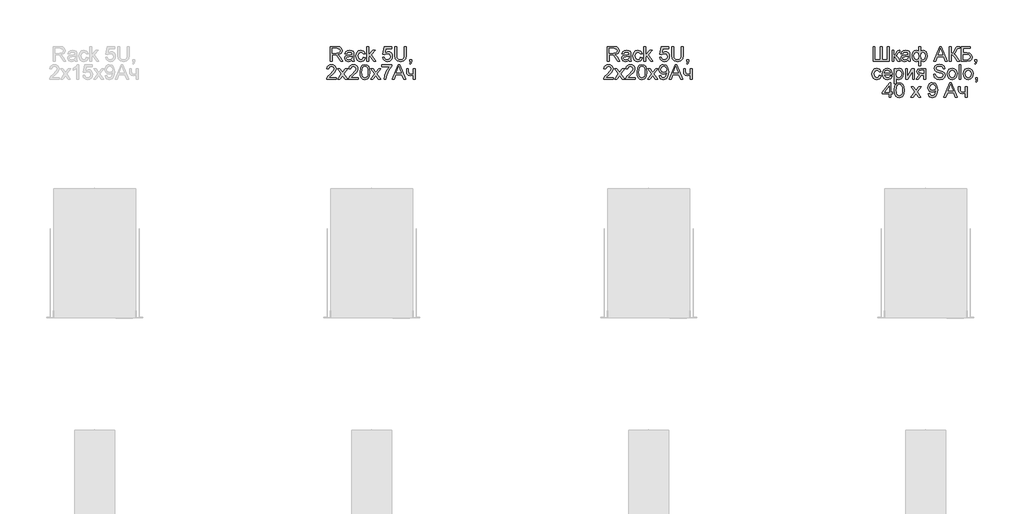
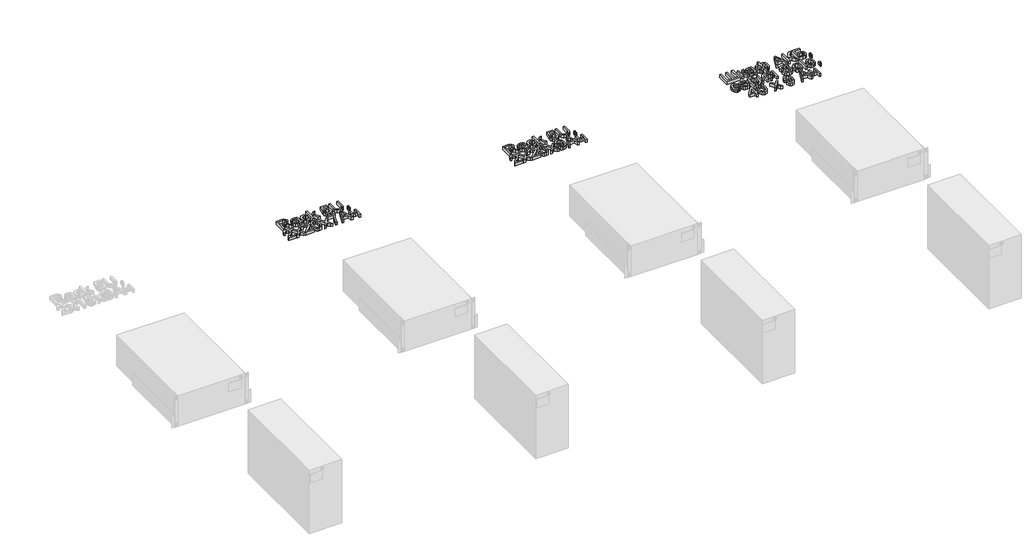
# One storey, part 11 of 74: 3 proxies.
"""IFC4 building model written with IfcOpenShell, lengths in millimetres."""

import ifcopenshell
import ifcopenshell.guid

model = None  # the IFC model being written
_history = None  # IfcOwnerHistory: only IFC2X3 demands one
_inside = {}  # id of a spatial element -> (the spatial element, [elements in it])
_under = {}  # id of a project, library or spatial element -> (it, [spatial elements below it])
_declared = {}  # id of a project -> (the project, [libraries it declares])
_typed = {}  # id of a type object -> (the type object, [elements of that type])
_made_of = {}  # id of a material, layer set ... -> (it, [elements and type objects made of it])


def new_model(schema):
    """Start an empty IFC model of exactly this schema.

    Asked for "IFC4X3", IfcOpenShell would pick the latest addendum, in which some entities
    have other attributes; the version numbers below select the first issue.
    IFC2X3 requires an IfcOwnerHistory on every rooted entity: one is made here for all.
    """
    global model, _history
    if schema == "IFC4X3":
        model = ifcopenshell.file(schema_version=(4, 3, 0, 0))
    else:
        model = ifcopenshell.file(schema=schema)
    _inside.clear()
    _under.clear()
    _declared.clear()
    _typed.clear()
    _made_of.clear()
    _history = None
    if model.schema == "IFC2X3":
        org = make("IfcOrganization", Name="unknown")
        user = make(
            "IfcPersonAndOrganization",
            ThePerson=make("IfcPerson", FamilyName="unknown"),
            TheOrganization=org,
        )
        app = make(
            "IfcApplication",
            ApplicationDeveloper=org,
            Version="unknown",
            ApplicationFullName="unknown",
            ApplicationIdentifier="unknown",
        )
        _history = make(
            "IfcOwnerHistory",
            OwningUser=user,
            OwningApplication=app,
            ChangeAction="ADDED",
            CreationDate=0,
        )
    return model


def make(cls, **values):
    """One entity of the class cls with the attributes given. An attribute that is None is left unset."""
    return model.create_entity(
        cls, **{name: value for name, value in values.items() if value is not None}
    )


def rooted(cls, **values):
    """An entity with a GlobalId (a new one), such as an element, a storey or a relation."""
    return make(cls, GlobalId=ifcopenshell.guid.new(), OwnerHistory=_history, **values)


def si_unit(unit_type, name, prefix=None):
    """IfcSIUnit, for example si_unit("LENGTHUNIT", "METRE", prefix="MILLI")."""
    return make("IfcSIUnit", UnitType=unit_type, Prefix=prefix, Name=name)


def assignment(units):
    """IfcUnitAssignment: the units of a project."""
    return None if units is None else make("IfcUnitAssignment", Units=units)


def point(xyz):
    """IfcCartesianPoint."""
    return None if xyz is None else make("IfcCartesianPoint", Coordinates=xyz)


def direction(xyz):
    """IfcDirection."""
    return None if xyz is None else make("IfcDirection", DirectionRatios=xyz)


def frame(location, z_axis=None, x_axis=None):
    """IfcAxis2Placement3D, a coordinate frame: its origin and axes. An axis left out is left unset."""
    return make(
        "IfcAxis2Placement3D",
        Location=point(location),
        Axis=direction(z_axis),
        RefDirection=direction(x_axis),
    )


def origin():
    """The frame at (0, 0, 0) with its axes left unset."""
    return frame((0.0, 0.0, 0.0))


def origin_with_axes():
    """The frame at (0, 0, 0) with the z axis (0, 0, 1) and the x axis (1, 0, 0) written out."""
    return frame((0.0, 0.0, 0.0), z_axis=(0.0, 0.0, 1.0), x_axis=(1.0, 0.0, 0.0))


def place(relative_to, where):
    """IfcLocalPlacement: puts the frame where relative to a parent placement (None: the world)."""
    return make(
        "IfcLocalPlacement", PlacementRelTo=relative_to, RelativePlacement=where
    )


def context(
    kind, dimensions, precision=None, world=None, true_north=None, identifier=None
):
    """IfcGeometricRepresentationContext, for example the 3D "Model" context."""
    return make(
        "IfcGeometricRepresentationContext",
        ContextIdentifier=identifier,
        ContextType=kind,
        CoordinateSpaceDimension=dimensions,
        Precision=precision,
        WorldCoordinateSystem=world,
        TrueNorth=true_north,
    )


def project(units=None, contexts=None):
    """IfcProject with its units and contexts."""
    return rooted(
        "IfcProject",
        Name="project",
        RepresentationContexts=contexts,
        UnitsInContext=assignment(units),
    )


def spatial(cls, under=None, at=None, **own):
    """A site, building, storey or space (cls), placed at a placement, below another one or the project."""
    s = rooted(cls, ObjectPlacement=at, **own)
    if under is not None:
        _under.setdefault(under.id(), (under, []))[1].append(s)
    return s


def polyline(points):
    """IfcPolyline through the points."""
    return make("IfcPolyline", Points=[point(p) for p in points])


def outline(outer, holes=None, kind="AREA"):
    """IfcArbitraryClosedProfileDef: a profile drawn as a closed curve; with holes, ...WithVoids."""
    if holes is None:
        return make("IfcArbitraryClosedProfileDef", ProfileType=kind, OuterCurve=outer)
    return make(
        "IfcArbitraryProfileDefWithVoids",
        ProfileType=kind,
        OuterCurve=outer,
        InnerCurves=holes,
    )


def extrude(swept, where, along, depth):
    """IfcExtrudedAreaSolid: the profile swept, set in the frame where, extruded along a direction by depth."""
    return make(
        "IfcExtrudedAreaSolid",
        SweptArea=swept,
        Position=where,
        ExtrudedDirection=direction(along),
        Depth=depth,
    )


def shape(context_of_items, identifier, shape_type, items):
    """IfcShapeRepresentation: the items that make up one representation, for example the "Body"."""
    return make(
        "IfcShapeRepresentation",
        ContextOfItems=context_of_items,
        RepresentationIdentifier=identifier,
        RepresentationType=shape_type,
        Items=items,
    )


def made_of(thing, what):
    """Note that an element or type object is made of a material, layer set ...; save() writes the relation."""
    if what is not None:
        _made_of.setdefault(what.id(), (what, []))[1].append(thing)
    return thing


def element(
    cls,
    number,
    at=None,
    inside=None,
    cuts=None,
    type_object=None,
    material=None,
    context=None,
    identifier="Body",
    shape_type=None,
    held_by="IfcProductDefinitionShape",
    body=None,
    shapes=None,
    **own,
):
    """One element of the class cls, such as IfcWall. Its Tag is "e" and its number.

    at: its placement. inside: the storey or other place that contains it. cuts: it is an
    opening in that element (IfcRelVoidsElement). A single representation is given by context,
    identifier, shape_type and body (its items); several are given by shapes. held_by: the class
    of the entity that holds the representations. save() writes the other relations.
    """
    e = rooted(cls, Tag="e%d" % number, ObjectPlacement=at, **own)
    if body is not None:
        shapes = [shape(context, identifier, shape_type, body)]
    if shapes is not None:
        e.Representation = make(held_by, Representations=shapes)
    if inside is not None:
        _inside.setdefault(inside.id(), (inside, []))[1].append(e)
    if cuts is not None:
        rooted(
            "IfcRelVoidsElement", RelatingBuildingElement=cuts, RelatedOpeningElement=e
        )
    if type_object is not None:
        _typed.setdefault(type_object.id(), (type_object, []))[1].append(e)
    return made_of(e, material)


def aggregate(whole, parts):
    """IfcRelAggregates: a whole, such as a stair, and the parts it consists of."""
    return rooted("IfcRelAggregates", RelatingObject=whole, RelatedObjects=parts)


def save(model, path):
    """Write the relations noted so far, then the file.

    IfcRelAggregates (storeys below a building ...), IfcRelContainedInSpatialStructure (elements
    in a storey), IfcRelDefinesByType, IfcRelAssociatesMaterial and IfcRelDeclares: one each for
    every whole, place, type object, material and project.
    """
    for whole, parts in _under.values():
        aggregate(whole, parts)
    for where, things in _inside.values():
        rooted(
            "IfcRelContainedInSpatialStructure",
            RelatedElements=things,
            RelatingStructure=where,
        )
    for kind, things in _typed.values():
        rooted("IfcRelDefinesByType", RelatedObjects=things, RelatingType=kind)
    for what, things in _made_of.values():
        rooted("IfcRelAssociatesMaterial", RelatedObjects=things, RelatingMaterial=what)
    for by, libraries in _declared.values():
        rooted("IfcRelDeclares", RelatingContext=by, RelatedDefinitions=libraries)
    model.write(path)


model = new_model("IFC4")

# Units and contexts
model_context = context("Model", 3, world=origin())
ifc_project = project(units=[si_unit("LENGTHUNIT", "METRE", prefix="MILLI")], contexts=[model_context])

# Site, building, storey
site = spatial("IfcSite", under=ifc_project)
building = spatial("IfcBuilding", under=site)
storey = spatial("IfcBuildingStorey", under=building, Name="Этаж 01", Elevation=0.0)

# Proxies
placement = place(None, origin())
element("IfcBuildingElementProxy", 1, Name="80 мм Arial", ObjectType="80 мм Arial", at=placement, inside=storey, context=model_context, shape_type="SweptSolid", body=[
    extrude(outline(polyline([(4129.0784863, -38568.2576646), (4129.0784863, -38487.8926165), (4163.7084448, -38487.8926165), (4179.7873406, -38490.0606677), (4188.5772677, -38497.7322336), (4191.8636802, -38509.8870547), (4186.4190267, -38524.3668901), (4169.5945567, -38531.8422522), (4175.3040853, -38536.1391139), (4183.4465401, -38546.4790505), (4196.8472549, -38568.2576646), (4185.173133, -38568.2576646), (4174.7154741, -38551.5999679), (4167.1616305, -38540.5733182), (4161.8543196, -38535.3641092), (4157.0767587, -38533.4511228), (4151.2495079, -38533.0979561), (4139.1241174, -38533.0979561), (4139.1241174, -38568.2576646), (4129.0784863, -38568.2576646)]), holes=[polyline([(4139.1241174, -38523.0523251), (4161.6090649, -38523.0523251), (4173.077173, -38521.629848), (4179.5911368, -38517.0779215), (4181.8180492, -38510.2598418), (4177.5702384, -38501.4110536), (4164.140093, -38497.9382475), (4139.1241174, -38497.9382475), (4139.1241174, -38523.0523251)])]), origin_with_axes(), (0.0, 0.0, 1.0), 20.0),
    extrude(outline(polyline([(4245.8589469, -38560.7234414), (4236.1174317, -38567.5317108), (4225.355657, -38569.5133685), (4210.7679096, -38564.7456178), (4205.6764228, -38552.5613662), (4207.5992194, -38544.6151151), (4212.6514655, -38538.8467254), (4219.6853692, -38535.5505027), (4228.3771945, -38534.039734), (4245.8000858, -38530.5865483), (4245.8589469, -38528.3498258), (4243.0924743, -38520.9333248), (4231.9873431, -38518.0295095), (4221.8239899, -38519.9621163), (4216.9777577, -38526.8194367), (4206.9321267, -38525.5637328), (4211.2780393, -38515.7535463), (4220.0287257, -38510.004777), (4233.2822877, -38507.9838785), (4245.4567292, -38509.7693325), (4252.33367, -38514.2525877), (4255.4140686, -38521.0706674), (4255.9045779, -38529.8605945), (4255.9045779, -38542.3587722), (4256.4147076, -38559.811094), (4258.4159857, -38568.2576646), (4248.3703546, -38568.2576646), (4245.8589469, -38560.7234414)]), holes=[polyline([(4245.8589469, -38540.6321793), (4229.6525187, -38543.7125779), (4221.0097444, -38545.3410689), (4217.09548, -38547.9898192), (4215.7220538, -38551.8550327), (4218.7141607, -38557.2898761), (4227.4942777, -38559.4677375), (4237.6576309, -38557.0642418), (4244.2108356, -38551.2468012), (4245.8000858, -38543.4771334), (4245.8589469, -38540.6321793)])]), origin_with_axes(), (0.0, 0.0, 1.0), 20.0),
    extrude(outline(polyline([(4307.3884369, -38546.9106987), (4317.4340679, -38548.1664026), (4314.6332596, -38557.10103), (4309.3700945, -38563.8528909), (4293.4383516, -38569.5133685), (4282.7526059, -38567.5390685), (4274.3967795, -38561.6161683), (4269.0036295, -38552.0046381), (4267.2059128, -38538.9644476), (4270.2765012, -38522.2773203), (4279.6354191, -38511.5547864), (4293.301009, -38507.9838785), (4308.5754694, -38512.8889718), (4316.178364, -38526.8194367), (4306.132733, -38528.0751406), (4301.4728944, -38520.5507275), (4293.3794905, -38518.0295095), (4281.7347991, -38522.9934639), (4277.2515438, -38538.6897624), (4281.6366972, -38554.5332137), (4293.1048053, -38559.4677375), (4302.5716353, -38556.3873389), (4307.3884369, -38546.9106987)])), origin_with_axes(), (0.0, 0.0, 1.0), 20.0),
    extrude(outline(polyline([(4326.223995, -38568.2576646), (4326.223995, -38487.8926165), (4336.269626, -38487.8926165), (4336.269626, -38531.0770576), (4358.7938143, -38509.2395824), (4372.6850385, -38509.2395824), (4349.8861649, -38531.3517429), (4373.9407423, -38568.2576646), (4362.2077592, -38568.2576646), (4342.685488, -38538.3365957), (4336.269626, -38544.5562539), (4336.269626, -38568.2576646), (4326.223995, -38568.2576646)])), origin_with_axes(), (0.0, 0.0, 1.0), 20.0),
    extrude(outline(polyline([(4411.6118586, -38546.9106987), (4421.6574897, -38545.6549948), (4426.7195459, -38556.0047416), (4437.2164455, -38559.4677375), (4449.812725, -38554.6509359), (4454.3057904, -38541.8682628), (4450.0972204, -38529.939076), (4437.3734085, -38525.5637328), (4428.5540508, -38527.309946), (4422.9131935, -38531.8422522), (4412.8675625, -38530.5865483), (4421.6574897, -38489.1483204), (4460.5843098, -38489.1483204), (4460.5843098, -38499.1939514), (4429.7803241, -38499.1939514), (4425.4834624, -38521.3257322), (4440.1791218, -38515.5181018), (4449.5650178, -38517.318271), (4457.3567585, -38522.7187787), (4462.6027557, -38530.9495252), (4464.3514215, -38541.2404109), (4462.7768865, -38551.2860419), (4458.0532817, -38559.8797653), (4449.0082897, -38567.1049677), (4437.1772048, -38569.5133685), (4427.3106096, -38567.9658116), (4419.4501977, -38563.3231408), (4414.0619527, -38556.1249164), (4411.6118586, -38546.9106987)])), origin_with_axes(), (0.0, 0.0, 1.0), 20.0),
    extrude(outline(polyline([(4529.6480231, -38487.8926165), (4539.6936541, -38487.8926165), (4539.6936541, -38534.2555581), (4536.9664222, -38553.4737135), (4527.1366153, -38565.0497336), (4508.4972609, -38569.5133685), (4490.1424019, -38565.6285346), (4479.9594282, -38554.3762507), (4476.9084602, -38534.2555581), (4476.9084602, -38487.8926165), (4486.9540912, -38487.8926165), (4486.9540912, -38533.9023914), (4488.9357489, -38549.2160926), (4495.7440184, -38556.7993667), (4507.555483, -38559.4677375), (4517.7727923, -38558.1482674), (4524.5663464, -38554.1898571), (4528.3776039, -38546.4790505), (4529.6480231, -38533.9023914), (4529.6480231, -38487.8926165)])), origin_with_axes(), (0.0, 0.0, 1.0), 20.0),
    extrude(outline(polyline([(4558.5292122, -38568.2576646), (4558.5292122, -38558.2120336), (4568.5748432, -38558.2120336), (4568.5748432, -38568.2576646), (4566.7697689, -38578.5289299), (4561.04062, -38584.581815), (4558.5292122, -38580.8147034), (4562.2178424, -38576.4786009), (4563.5324074, -38568.2576646), (4558.5292122, -38568.2576646)])), origin_with_axes(), (0.0, 0.0, 1.0), 20.0),
    extrude(outline(polyline([(4161.0989352, -38655.7918879), (4161.0989352, -38665.8375189), (4108.3593724, -38665.8375189), (4109.4384929, -38658.9115272), (4115.5404289, -38648.2478544), (4128.1170881, -38636.603163), (4145.4614979, -38619.8669848), (4149.7976003, -38608.4871684), (4145.7067525, -38599.2754032), (4135.0234594, -38595.5181018), (4123.8888977, -38599.1871116), (4119.6607073, -38609.3308444), (4109.6150762, -38608.0751406), (4112.0504551, -38598.3581508), (4117.3160727, -38591.2604808), (4125.1372439, -38586.9194733), (4135.2392835, -38585.4724708), (4145.4148995, -38587.0813414), (4153.2213554, -38591.9079531), (4158.1877623, -38599.1184403), (4159.8432313, -38607.8789368), (4158.0577774, -38617.404628), (4152.1226145, -38627.2540552), (4137.7310709, -38641.017747), (4126.1746711, -38650.6807807), (4121.6423649, -38655.7918879), (4161.0989352, -38655.7918879)])), origin_with_axes(), (0.0, 0.0, 1.0), 20.0),
    extrude(outline(polyline([(4167.3774546, -38665.8375189), (4188.8421427, -38636.1715148), (4168.6331585, -38606.8194367), (4180.7193083, -38606.8194367), (4190.4706337, -38620.9461053), (4195.0225602, -38627.6170321), (4198.9662552, -38622.1625684), (4210.0713864, -38606.8194367), (4222.1575362, -38606.8194367), (4200.9282925, -38636.1715148), (4221.3727213, -38665.8375189), (4209.2865715, -38665.8375189), (4196.9845976, -38648.0025998), (4194.7282547, -38644.7456178), (4179.4636044, -38665.8375189), (4167.3774546, -38665.8375189)])), origin_with_axes(), (0.0, 0.0, 1.0), 20.0),
    extrude(outline(polyline([(4279.1350996, -38655.7918879), (4279.1350996, -38665.8375189), (4226.3955368, -38665.8375189), (4227.4746573, -38658.9115272), (4233.5765933, -38648.2478544), (4246.1532525, -38636.603163), (4263.4976623, -38619.8669848), (4267.8337647, -38608.4871684), (4263.7429169, -38599.2754032), (4253.0596238, -38595.5181018), (4241.9250621, -38599.1871116), (4237.6968717, -38609.3308444), (4227.6512407, -38608.0751406), (4230.0866195, -38598.3581508), (4235.3522371, -38591.2604808), (4243.1734083, -38586.9194733), (4253.2754479, -38585.4724708), (4263.4510639, -38587.0813414), (4271.2575198, -38591.9079531), (4276.2239268, -38599.1184403), (4277.8793957, -38607.8789368), (4276.0939418, -38617.404628), (4270.1587789, -38627.2540552), (4255.7672353, -38641.017747), (4244.2108356, -38650.6807807), (4239.6785294, -38655.7918879), (4279.1350996, -38655.7918879)])), origin_with_axes(), (0.0, 0.0, 1.0), 20.0),
    extrude(outline(polyline([(4289.1807306, -38626.3024672), (4292.1335968, -38603.1798575), (4300.9039036, -38589.847814), (4315.5505121, -38585.4724708), (4327.2834952, -38588.06236), (4335.3867092, -38595.527912), (4340.0955988, -38607.4178581), (4341.9202935, -38626.3024672), (4338.9968579, -38649.326975), (4330.2559817, -38662.688449), (4315.5505121, -38667.0932228), (4305.1124736, -38665.1802364), (4297.1858429, -38659.4412773), (4291.1820087, -38645.8492638), (4289.1807306, -38626.3024672)]), holes=[polyline([(4299.2263617, -38626.2828468), (4300.403584, -38642.0846047), (4303.9352512, -38651.2301511), (4315.5505121, -38657.0475918), (4327.1657729, -38651.2105308), (4330.6974401, -38642.0600793), (4331.8746625, -38626.2828468), (4330.7366808, -38610.8367081), (4327.3227359, -38601.6200378), (4322.0742861, -38597.0435858), (4315.4327898, -38595.5181018), (4304.0922142, -38600.894084), (4300.4428248, -38610.6846502), (4299.2263617, -38626.2828468)])]), origin_with_axes(), (0.0, 0.0, 1.0), 20.0),
    extrude(outline(polyline([(4346.943109, -38665.8375189), (4368.4077971, -38636.1715148), (4348.1988129, -38606.8194367), (4360.2849627, -38606.8194367), (4370.0362881, -38620.9461053), (4374.5882146, -38627.6170321), (4378.5319096, -38622.1625684), (4389.6370408, -38606.8194367), (4401.7231906, -38606.8194367), (4380.4939469, -38636.1715148), (4400.9383757, -38665.8375189), (4388.8522259, -38665.8375189), (4376.5502519, -38648.0025998), (4374.293909, -38644.7456178), (4359.0292588, -38665.8375189), (4346.943109, -38665.8375189)])), origin_with_axes(), (0.0, 0.0, 1.0), 20.0),
    extrude(outline(polyline([(4407.2168951, -38596.7738057), (4407.2168951, -38586.7281747), (4459.9564579, -38586.7281747), (4459.9564579, -38594.8510091), (4444.9959234, -38616.4628501), (4433.5474357, -38644.0000437), (4429.8195649, -38665.8375189), (4419.7739338, -38665.8375189), (4423.7666798, -38643.175988), (4434.7246581, -38617.5615909), (4449.9108269, -38596.7738057), (4407.2168951, -38596.7738057)])), origin_with_axes(), (0.0, 0.0, 1.0), 20.0),
    extrude(outline(polyline([(4463.1545787, -38665.8375189), (4495.2338887, -38585.4724708), (4503.7883713, -38585.4724708), (4535.8676813, -38665.8375189), (4525.2530595, -38665.8375189), (4516.0511045, -38640.7234414), (4482.9515351, -38640.7234414), (4473.7692005, -38665.8375189), (4463.1545787, -38665.8375189)]), holes=[polyline([(4486.6401653, -38630.6778103), (4512.3820948, -38630.6778103), (4505.1421771, -38610.9200947), (4499.51113, -38595.5181018), (4494.5079349, -38609.1935018), (4486.6401653, -38630.6778103)])]), origin_with_axes(), (0.0, 0.0, 1.0), 20.0),
    extrude(outline(polyline([(4541.5772099, -38606.8194367), (4551.6228409, -38606.8194367), (4551.6228409, -38618.140392), (4552.4370864, -38628.7550138), (4556.3513508, -38634.5037831), (4564.1210186, -38636.9563297), (4577.9926223, -38633.9151719), (4577.9926223, -38606.8194367), (4588.0382533, -38606.8194367), (4588.0382533, -38665.8375189), (4577.9926223, -38665.8375189), (4577.9926223, -38643.5487751), (4561.4330274, -38647.0019607), (4550.0434009, -38643.4016223), (4543.3430435, -38634.5822646), (4541.5772099, -38623.1043463), (4541.5772099, -38606.8194367)])), origin_with_axes(), (0.0, 0.0, 1.0), 20.0),
])
element("IfcBuildingElementProxy", 2, Name="80 мм Arial", ObjectType="80 мм Arial", at=placement, inside=storey, context=model_context, shape_type="SweptSolid", body=[
    extrude(outline(polyline([(5629.0784863, -38568.2576646), (5629.0784863, -38487.8926165), (5663.7084448, -38487.8926165), (5679.7873406, -38490.0606677), (5688.5772677, -38497.7322336), (5691.8636802, -38509.8870547), (5686.4190267, -38524.3668901), (5669.5945567, -38531.8422522), (5675.3040853, -38536.1391139), (5683.4465401, -38546.4790505), (5696.8472549, -38568.2576646), (5685.173133, -38568.2576646), (5674.7154741, -38551.5999679), (5667.1616305, -38540.5733182), (5661.8543196, -38535.3641092), (5657.0767587, -38533.4511228), (5651.2495079, -38533.0979561), (5639.1241174, -38533.0979561), (5639.1241174, -38568.2576646), (5629.0784863, -38568.2576646)]), holes=[polyline([(5639.1241174, -38523.0523251), (5661.6090649, -38523.0523251), (5673.077173, -38521.629848), (5679.5911368, -38517.0779215), (5681.8180492, -38510.2598418), (5677.5702384, -38501.4110536), (5664.140093, -38497.9382475), (5639.1241174, -38497.9382475), (5639.1241174, -38523.0523251)])]), origin_with_axes(), (0.0, 0.0, 1.0), 20.0),
    extrude(outline(polyline([(5745.8589469, -38560.7234414), (5736.1174317, -38567.5317108), (5725.355657, -38569.5133685), (5710.7679096, -38564.7456178), (5705.6764228, -38552.5613662), (5707.5992194, -38544.6151151), (5712.6514655, -38538.8467254), (5719.6853692, -38535.5505027), (5728.3771945, -38534.039734), (5745.8000858, -38530.5865483), (5745.8589469, -38528.3498258), (5743.0924743, -38520.9333248), (5731.9873431, -38518.0295095), (5721.8239899, -38519.9621163), (5716.9777577, -38526.8194367), (5706.9321267, -38525.5637328), (5711.2780393, -38515.7535463), (5720.0287257, -38510.004777), (5733.2822877, -38507.9838785), (5745.4567292, -38509.7693325), (5752.33367, -38514.2525877), (5755.4140686, -38521.0706674), (5755.9045779, -38529.8605945), (5755.9045779, -38542.3587722), (5756.4147076, -38559.811094), (5758.4159857, -38568.2576646), (5748.3703546, -38568.2576646), (5745.8589469, -38560.7234414)]), holes=[polyline([(5745.8589469, -38540.6321793), (5729.6525187, -38543.7125779), (5721.0097444, -38545.3410689), (5717.09548, -38547.9898192), (5715.7220538, -38551.8550327), (5718.7141607, -38557.2898761), (5727.4942777, -38559.4677375), (5737.6576309, -38557.0642418), (5744.2108356, -38551.2468012), (5745.8000858, -38543.4771334), (5745.8589469, -38540.6321793)])]), origin_with_axes(), (0.0, 0.0, 1.0), 20.0),
    extrude(outline(polyline([(5807.3884369, -38546.9106987), (5817.4340679, -38548.1664026), (5814.6332596, -38557.10103), (5809.3700945, -38563.8528909), (5793.4383516, -38569.5133685), (5782.7526059, -38567.5390685), (5774.3967795, -38561.6161683), (5769.0036295, -38552.0046381), (5767.2059128, -38538.9644476), (5770.2765012, -38522.2773203), (5779.6354191, -38511.5547864), (5793.301009, -38507.9838785), (5808.5754694, -38512.8889718), (5816.178364, -38526.8194367), (5806.132733, -38528.0751406), (5801.4728944, -38520.5507275), (5793.3794905, -38518.0295095), (5781.7347991, -38522.9934639), (5777.2515438, -38538.6897624), (5781.6366972, -38554.5332137), (5793.1048053, -38559.4677375), (5802.5716353, -38556.3873389), (5807.3884369, -38546.9106987)])), origin_with_axes(), (0.0, 0.0, 1.0), 20.0),
    extrude(outline(polyline([(5826.223995, -38568.2576646), (5826.223995, -38487.8926165), (5836.269626, -38487.8926165), (5836.269626, -38531.0770576), (5858.7938143, -38509.2395824), (5872.6850385, -38509.2395824), (5849.8861649, -38531.3517429), (5873.9407423, -38568.2576646), (5862.2077592, -38568.2576646), (5842.685488, -38538.3365957), (5836.269626, -38544.5562539), (5836.269626, -38568.2576646), (5826.223995, -38568.2576646)])), origin_with_axes(), (0.0, 0.0, 1.0), 20.0),
    extrude(outline(polyline([(5911.6118586, -38546.9106987), (5921.6574897, -38545.6549948), (5926.7195459, -38556.0047416), (5937.2164455, -38559.4677375), (5949.812725, -38554.6509359), (5954.3057904, -38541.8682628), (5950.0972204, -38529.939076), (5937.3734085, -38525.5637328), (5928.5540508, -38527.309946), (5922.9131935, -38531.8422522), (5912.8675625, -38530.5865483), (5921.6574897, -38489.1483204), (5960.5843098, -38489.1483204), (5960.5843098, -38499.1939514), (5929.7803241, -38499.1939514), (5925.4834624, -38521.3257322), (5940.1791218, -38515.5181018), (5949.5650178, -38517.318271), (5957.3567585, -38522.7187787), (5962.6027557, -38530.9495252), (5964.3514215, -38541.2404109), (5962.7768865, -38551.2860419), (5958.0532817, -38559.8797653), (5949.0082897, -38567.1049677), (5937.1772048, -38569.5133685), (5927.3106096, -38567.9658116), (5919.4501977, -38563.3231408), (5914.0619527, -38556.1249164), (5911.6118586, -38546.9106987)])), origin_with_axes(), (0.0, 0.0, 1.0), 20.0),
    extrude(outline(polyline([(6029.6480231, -38487.8926165), (6039.6936541, -38487.8926165), (6039.6936541, -38534.2555581), (6036.9664222, -38553.4737135), (6027.1366153, -38565.0497336), (6008.4972609, -38569.5133685), (5990.1424019, -38565.6285346), (5979.9594282, -38554.3762507), (5976.9084602, -38534.2555581), (5976.9084602, -38487.8926165), (5986.9540912, -38487.8926165), (5986.9540912, -38533.9023914), (5988.9357489, -38549.2160926), (5995.7440184, -38556.7993667), (6007.555483, -38559.4677375), (6017.7727923, -38558.1482674), (6024.5663464, -38554.1898571), (6028.3776039, -38546.4790505), (6029.6480231, -38533.9023914), (6029.6480231, -38487.8926165)])), origin_with_axes(), (0.0, 0.0, 1.0), 20.0),
    extrude(outline(polyline([(6058.5292122, -38568.2576646), (6058.5292122, -38558.2120336), (6068.5748432, -38558.2120336), (6068.5748432, -38568.2576646), (6066.7697689, -38578.5289299), (6061.04062, -38584.581815), (6058.5292122, -38580.8147034), (6062.2178424, -38576.4786009), (6063.5324074, -38568.2576646), (6058.5292122, -38568.2576646)])), origin_with_axes(), (0.0, 0.0, 1.0), 20.0),
    extrude(outline(polyline([(5661.0989352, -38655.7918879), (5661.0989352, -38665.8375189), (5608.3593724, -38665.8375189), (5609.4384929, -38658.9115272), (5615.5404289, -38648.2478544), (5628.1170881, -38636.603163), (5645.4614979, -38619.8669848), (5649.7976003, -38608.4871684), (5645.7067525, -38599.2754032), (5635.0234594, -38595.5181018), (5623.8888977, -38599.1871116), (5619.6607073, -38609.3308444), (5609.6150762, -38608.0751406), (5612.0504551, -38598.3581508), (5617.3160727, -38591.2604808), (5625.1372439, -38586.9194733), (5635.2392835, -38585.4724708), (5645.4148995, -38587.0813414), (5653.2213554, -38591.9079531), (5658.1877623, -38599.1184403), (5659.8432313, -38607.8789368), (5658.0577774, -38617.404628), (5652.1226145, -38627.2540552), (5637.7310709, -38641.017747), (5626.1746711, -38650.6807807), (5621.6423649, -38655.7918879), (5661.0989352, -38655.7918879)])), origin_with_axes(), (0.0, 0.0, 1.0), 20.0),
    extrude(outline(polyline([(5667.3774546, -38665.8375189), (5688.8421427, -38636.1715148), (5668.6331585, -38606.8194367), (5680.7193083, -38606.8194367), (5690.4706337, -38620.9461053), (5695.0225602, -38627.6170321), (5698.9662552, -38622.1625684), (5710.0713864, -38606.8194367), (5722.1575362, -38606.8194367), (5700.9282925, -38636.1715148), (5721.3727213, -38665.8375189), (5709.2865715, -38665.8375189), (5696.9845976, -38648.0025998), (5694.7282547, -38644.7456178), (5679.4636044, -38665.8375189), (5667.3774546, -38665.8375189)])), origin_with_axes(), (0.0, 0.0, 1.0), 20.0),
    extrude(outline(polyline([(5779.1350996, -38655.7918879), (5779.1350996, -38665.8375189), (5726.3955368, -38665.8375189), (5727.4746573, -38658.9115272), (5733.5765933, -38648.2478544), (5746.1532525, -38636.603163), (5763.4976623, -38619.8669848), (5767.8337647, -38608.4871684), (5763.7429169, -38599.2754032), (5753.0596238, -38595.5181018), (5741.9250621, -38599.1871116), (5737.6968717, -38609.3308444), (5727.6512407, -38608.0751406), (5730.0866195, -38598.3581508), (5735.3522371, -38591.2604808), (5743.1734083, -38586.9194733), (5753.2754479, -38585.4724708), (5763.4510639, -38587.0813414), (5771.2575198, -38591.9079531), (5776.2239268, -38599.1184403), (5777.8793957, -38607.8789368), (5776.0939418, -38617.404628), (5770.1587789, -38627.2540552), (5755.7672353, -38641.017747), (5744.2108356, -38650.6807807), (5739.6785294, -38655.7918879), (5779.1350996, -38655.7918879)])), origin_with_axes(), (0.0, 0.0, 1.0), 20.0),
    extrude(outline(polyline([(5789.1807306, -38626.3024672), (5792.1335968, -38603.1798575), (5800.9039036, -38589.847814), (5815.5505121, -38585.4724708), (5827.2834952, -38588.06236), (5835.3867092, -38595.527912), (5840.0955988, -38607.4178581), (5841.9202935, -38626.3024672), (5838.9968579, -38649.326975), (5830.2559817, -38662.688449), (5815.5505121, -38667.0932228), (5805.1124736, -38665.1802364), (5797.1858429, -38659.4412773), (5791.1820087, -38645.8492638), (5789.1807306, -38626.3024672)]), holes=[polyline([(5799.2263617, -38626.2828468), (5800.403584, -38642.0846047), (5803.9352512, -38651.2301511), (5815.5505121, -38657.0475918), (5827.1657729, -38651.2105308), (5830.6974401, -38642.0600793), (5831.8746625, -38626.2828468), (5830.7366808, -38610.8367081), (5827.3227359, -38601.6200378), (5822.0742861, -38597.0435858), (5815.4327898, -38595.5181018), (5804.0922142, -38600.894084), (5800.4428248, -38610.6846502), (5799.2263617, -38626.2828468)])]), origin_with_axes(), (0.0, 0.0, 1.0), 20.0),
    extrude(outline(polyline([(5846.943109, -38665.8375189), (5868.4077971, -38636.1715148), (5848.1988129, -38606.8194367), (5860.2849627, -38606.8194367), (5870.0362881, -38620.9461053), (5874.5882146, -38627.6170321), (5878.5319096, -38622.1625684), (5889.6370408, -38606.8194367), (5901.7231906, -38606.8194367), (5880.4939469, -38636.1715148), (5900.9383757, -38665.8375189), (5888.8522259, -38665.8375189), (5876.5502519, -38648.0025998), (5874.293909, -38644.7456178), (5859.0292588, -38665.8375189), (5846.943109, -38665.8375189)])), origin_with_axes(), (0.0, 0.0, 1.0), 20.0),
    extrude(outline(polyline([(5908.4725989, -38645.7462569), (5918.51823, -38644.490553), (5923.0309158, -38654.0751052), (5931.5853984, -38657.0475918), (5939.7180431, -38655.1346054), (5945.2313679, -38650.0234982), (5948.5177804, -38641.2924322), (5949.969688, -38629.6379306), (5949.9108269, -38627.6758933), (5941.8762841, -38635.288598), (5930.8594446, -38638.2120336), (5921.6991829, -38636.4265797), (5914.0742155, -38631.0702178), (5908.9312252, -38622.7953255), (5907.2168951, -38612.25428), (5909.0146117, -38601.364973), (5914.4077618, -38592.8301107), (5922.5085233, -38587.3118808), (5932.4290745, -38585.4724708), (5946.7421366, -38589.6712306), (5956.5915639, -38601.6396582), (5959.9564579, -38624.1246057), (5956.6013741, -38648.5225397), (5946.6244144, -38662.3450925), (5931.1145095, -38667.0932228), (5922.5256912, -38665.6928186), (5915.6732759, -38661.4916063), (5908.4725989, -38645.7462569)]), holes=[polyline([(5949.9108269, -38612.0188356), (5945.5747244, -38599.9719265), (5934.0575654, -38595.5181018), (5921.9714156, -38600.315283), (5917.2625261, -38612.7447894), (5921.7163508, -38623.8793511), (5933.7828802, -38628.1664026), (5945.3687105, -38623.8793511), (5949.9108269, -38612.0188356)])]), origin_with_axes(), (0.0, 0.0, 1.0), 20.0),
    extrude(outline(polyline([(5963.1545787, -38665.8375189), (5995.2338887, -38585.4724708), (6003.7883713, -38585.4724708), (6035.8676813, -38665.8375189), (6025.2530595, -38665.8375189), (6016.0511045, -38640.7234414), (5982.9515351, -38640.7234414), (5973.7692005, -38665.8375189), (5963.1545787, -38665.8375189)]), holes=[polyline([(5986.6401653, -38630.6778103), (6012.3820948, -38630.6778103), (6005.1421771, -38610.9200947), (5999.51113, -38595.5181018), (5994.5079349, -38609.1935018), (5986.6401653, -38630.6778103)])]), origin_with_axes(), (0.0, 0.0, 1.0), 20.0),
    extrude(outline(polyline([(6041.5772099, -38606.8194367), (6051.6228409, -38606.8194367), (6051.6228409, -38618.140392), (6052.4370864, -38628.7550138), (6056.3513508, -38634.5037831), (6064.1210186, -38636.9563297), (6077.9926223, -38633.9151719), (6077.9926223, -38606.8194367), (6088.0382533, -38606.8194367), (6088.0382533, -38665.8375189), (6077.9926223, -38665.8375189), (6077.9926223, -38643.5487751), (6061.4330274, -38647.0019607), (6050.0434009, -38643.4016223), (6043.3430435, -38634.5822646), (6041.5772099, -38623.1043463), (6041.5772099, -38606.8194367)])), origin_with_axes(), (0.0, 0.0, 1.0), 20.0),
])
element("IfcBuildingElementProxy", 3, Name="80 мм Arial", ObjectType="80 мм Arial", at=placement, inside=storey, context=model_context, shape_type="SweptSolid", body=[
    extrude(outline(polyline([(7067.5489964, -38487.8926165), (7077.5946274, -38487.8926165), (7077.5946274, -38558.2120336), (7106.4758166, -38558.2120336), (7106.4758166, -38487.8926165), (7116.5214476, -38487.8926165), (7116.5214476, -38558.2120336), (7145.4026367, -38558.2120336), (7145.4026367, -38487.8926165), (7155.4482678, -38487.8926165), (7155.4482678, -38568.2576646), (7067.5489964, -38568.2576646), (7067.5489964, -38487.8926165)])), origin_with_axes(), (0.0, 0.0, 1.0), 20.0),
    extrude(outline(polyline([(7170.5167143, -38509.2395824), (7180.5623453, -38509.2395824), (7180.5623453, -38534.3536599), (7187.2921333, -38532.5485856), (7192.8054581, -38522.0320657), (7197.3868152, -38512.9576431), (7201.4286121, -38510.004777), (7208.7764418, -38509.2395824), (7210.6992383, -38509.2395824), (7210.6992383, -38519.3440745), (7207.9916269, -38519.2852134), (7203.0865336, -38520.3447136), (7199.6333479, -38526.9567793), (7195.5817409, -38534.1084053), (7189.9016429, -38537.6106419), (7196.2390234, -38541.5200012), (7202.4586816, -38549.7556528), (7213.2106461, -38568.2576646), (7201.791589, -38568.2576646), (7191.2554486, -38550.1480603), (7185.9579479, -38542.4863046), (7180.5623453, -38540.6321793), (7180.5623453, -38568.2576646), (7170.5167143, -38568.2576646), (7170.5167143, -38509.2395824)])), origin_with_axes(), (0.0, 0.0, 1.0), 20.0),
    extrude(outline(polyline([(7257.1602818, -38560.7234414), (7247.4187665, -38567.5317108), (7236.6569919, -38569.5133685), (7222.0692445, -38564.7456178), (7216.9777577, -38552.5613662), (7218.9005543, -38544.6151151), (7223.9528003, -38538.8467254), (7230.9867041, -38535.5505027), (7239.6785294, -38534.039734), (7257.1014207, -38530.5865483), (7257.1602818, -38528.3498258), (7254.3938092, -38520.9333248), (7243.288678, -38518.0295095), (7233.1253248, -38519.9621163), (7228.2790926, -38526.8194367), (7218.2334616, -38525.5637328), (7222.5793742, -38515.7535463), (7231.3300606, -38510.004777), (7244.5836226, -38507.9838785), (7256.7580641, -38509.7693325), (7263.6350049, -38514.2525877), (7266.7154035, -38521.0706674), (7267.2059128, -38529.8605945), (7267.2059128, -38542.3587722), (7267.7160425, -38559.811094), (7269.7173205, -38568.2576646), (7259.6716895, -38568.2576646), (7257.1602818, -38560.7234414)]), holes=[polyline([(7257.1602818, -38540.6321793), (7240.9538536, -38543.7125779), (7232.3110793, -38545.3410689), (7228.3968149, -38547.9898192), (7227.0233887, -38551.8550327), (7230.0154956, -38557.2898761), (7238.7956126, -38559.4677375), (7248.9589658, -38557.0642418), (7255.5121704, -38551.2468012), (7257.1014207, -38543.4771334), (7257.1602818, -38540.6321793)])]), origin_with_axes(), (0.0, 0.0, 1.0), 20.0),
    extrude(outline(polyline([(7314.9226601, -38487.8926165), (7324.9682911, -38487.8926165), (7324.9682911, -38514.9098702), (7331.3547226, -38509.7006612), (7338.8398949, -38507.9838785), (7347.6322746, -38510.166645), (7354.3890406, -38516.7149446), (7358.6932599, -38526.574182), (7360.1279997, -38538.6897624), (7358.5828953, -38551.1756773), (7353.9475822, -38561.0079368), (7347.0166854, -38567.3870106), (7338.58483, -38569.5133685), (7332.4436533, -38568.5323498), (7324.9682911, -38563.175988), (7324.9682911, -38590.8603344), (7314.9226601, -38590.8603344), (7314.9226601, -38563.175988), (7308.5067981, -38567.9241183), (7300.9137137, -38569.5133685), (7292.4965737, -38567.4826599), (7285.2174153, -38561.390534), (7280.1847896, -38551.5165813), (7278.5072477, -38538.140392), (7280.0253741, -38526.363263), (7284.5797532, -38516.6560834), (7291.699496, -38510.1519298), (7300.9137137, -38507.9838785), (7308.6931917, -38509.7006612), (7314.9226601, -38514.9098702), (7314.9226601, -38487.8926165)]), holes=[polyline([(7324.90943, -38538.9252069), (7328.2547036, -38555.2787878), (7336.6424131, -38559.4677375), (7346.1484839, -38554.3173896), (7350.0823687, -38538.3169753), (7346.4525996, -38523.0523251), (7337.1329224, -38518.0295095), (7327.9800184, -38523.258339), (7324.90943, -38538.9252069)]), polyline([(7288.5528787, -38537.9245678), (7292.5750552, -38554.4253016), (7302.5618251, -38559.4677375), (7311.8913125, -38554.4547322), (7314.9815212, -38539.4157162), (7311.7343495, -38523.3760612), (7301.9339731, -38518.0295095), (7292.2807496, -38523.2485288), (7288.5528787, -38537.9245678)])]), origin_with_axes(), (0.0, 0.0, 1.0), 20.0),
    extrude(outline(polyline([(7395.9744213, -38568.2576646), (7428.0537313, -38487.8926165), (7436.6082139, -38487.8926165), (7468.6875239, -38568.2576646), (7458.0729021, -38568.2576646), (7448.8709471, -38543.1435871), (7415.7713777, -38543.1435871), (7406.5890431, -38568.2576646), (7395.9744213, -38568.2576646)]), holes=[polyline([(7419.4600079, -38533.0979561), (7445.2019373, -38533.0979561), (7437.9620197, -38513.3402404), (7432.3309726, -38497.9382475), (7427.3277775, -38511.6136476), (7419.4600079, -38533.0979561)])]), origin_with_axes(), (0.0, 0.0, 1.0), 20.0),
    extrude(outline(polyline([(7479.419868, -38487.8926165), (7489.465499, -38487.8926165), (7489.465499, -38523.0523251), (7500.6981626, -38520.3937645), (7508.5365016, -38506.9439988), (7514.079257, -38495.7113352), (7520.3577764, -38490.1489594), (7529.3340971, -38487.8926165), (7535.9265424, -38488.0103387), (7535.9265424, -38498.0559698), (7533.7094403, -38497.9971086), (7531.4923381, -38497.9382475), (7523.6441889, -38500.3515534), (7517.6795955, -38510.69149), (7510.5672102, -38523.2877695), (7503.6314084, -38527.4472886), (7511.3863608, -38531.989405), (7519.0334012, -38541.456235), (7535.9265424, -38568.2576646), (7524.2720408, -38568.2576646), (7509.9884092, -38545.6157541), (7499.932968, -38533.7944793), (7489.465499, -38530.5865483), (7489.465499, -38568.2576646), (7479.419868, -38568.2576646), (7479.419868, -38487.8926165)])), origin_with_axes(), (0.0, 0.0, 1.0), 20.0),
    extrude(outline(polyline([(7544.7164696, -38487.8926165), (7594.9446247, -38487.8926165), (7594.9446247, -38497.9382475), (7554.7621006, -38497.9382475), (7554.7621006, -38521.7966212), (7573.5780384, -38521.7966212), (7590.1572536, -38523.83714), (7600.0263013, -38531.5479466), (7603.7345518, -38544.7328373), (7601.0956116, -38556.181325), (7593.2180318, -38564.8829605), (7575.3831127, -38568.2576646), (7544.7164696, -38568.2576646), (7544.7164696, -38487.8926165)]), holes=[polyline([(7554.7621006, -38558.2120336), (7576.2856499, -38558.2120336), (7589.333198, -38554.8961906), (7593.6889208, -38544.9486614), (7591.1971334, -38537.0808918), (7584.2613315, -38532.882132), (7569.1242137, -38531.8422522), (7554.7621006, -38531.8422522), (7554.7621006, -38558.2120336)])]), origin_with_axes(), (0.0, 0.0, 1.0), 20.0),
    extrude(outline(polyline([(7618.8029983, -38568.2576646), (7618.8029983, -38558.2120336), (7628.8486293, -38558.2120336), (7628.8486293, -38568.2576646), (7627.043555, -38578.5289299), (7621.3144061, -38584.581815), (7618.8029983, -38580.8147034), (7622.4916285, -38576.4786009), (7623.8061935, -38568.2576646), (7618.8029983, -38568.2576646)])), origin_with_axes(), (0.0, 0.0, 1.0), 20.0),
    extrude(outline(polyline([(7101.453001, -38644.490553), (7111.4986321, -38645.7462569), (7108.6978238, -38654.6808843), (7103.4346587, -38661.4327451), (7087.5029158, -38667.0932228), (7076.8171701, -38665.1189227), (7068.4613437, -38659.1960226), (7063.0681937, -38649.5844924), (7061.270477, -38636.5443019), (7064.3410654, -38619.8571746), (7073.6999833, -38609.1346407), (7087.3655732, -38605.5637328), (7102.6400336, -38610.4688261), (7110.2429282, -38624.399291), (7100.1972972, -38625.6549948), (7095.5374586, -38618.1305818), (7087.4440547, -38615.6093638), (7075.7993633, -38620.5733182), (7071.316108, -38636.2696167), (7075.7012614, -38652.1130679), (7087.1693694, -38657.0475918), (7096.6361995, -38653.9671932), (7101.453001, -38644.490553)])), origin_with_axes(), (0.0, 0.0, 1.0), 20.0),
    extrude(outline(polyline([(7161.6090649, -38648.2576646), (7171.4584922, -38649.5133685), (7162.246727, -38662.4824351), (7145.0887108, -38667.0932228), (7133.3017716, -38665.1042075), (7124.2322542, -38659.1371615), (7118.4491492, -38649.5795873), (7116.5214476, -38636.8189871), (7118.4687696, -38623.6291913), (7124.3107357, -38613.7650488), (7133.2576258, -38607.6140618), (7144.51972, -38605.5637328), (7155.4310999, -38607.6091567), (7164.1499032, -38613.7454284), (7169.8667894, -38623.5899506), (7171.7724182, -38636.760126), (7171.713557, -38639.4677375), (7126.5670786, -38639.4677375), (7132.3452785, -38652.5152856), (7145.2849145, -38657.0475918), (7155.1343418, -38654.9482118), (7161.6090649, -38648.2576646)]), holes=[polyline([(7126.5670786, -38629.4221065), (7161.7267871, -38629.4221065), (7157.7046107, -38620.3182534), (7144.4804792, -38615.6093638), (7132.109834, -38619.3666653), (7126.5670786, -38629.4221065)])]), origin_with_axes(), (0.0, 0.0, 1.0), 20.0),
    extrude(outline(polyline([(7181.8180492, -38688.4401887), (7181.8180492, -38606.8194367), (7191.8636802, -38606.8194367), (7191.8636802, -38616.668864), (7198.8092923, -38608.3400156), (7208.1878306, -38605.5637328), (7220.9214527, -38609.4485667), (7229.2404909, -38620.3967349), (7232.0462042, -38635.8772092), (7228.877514, -38652.1523087), (7219.675559, -38663.2378195), (7206.9713675, -38667.0932228), (7198.2304912, -38664.5131437), (7191.8636802, -38657.9893697), (7191.8636802, -38688.4401887), (7181.8180492, -38688.4401887)]), holes=[polyline([(7191.8636802, -38636.7993667), (7196.2095928, -38652.1032577), (7206.7555433, -38657.0475918), (7217.517318, -38651.9266744), (7222.0005732, -38636.0537926), (7217.62523, -38620.7106608), (7207.1675712, -38615.6093638), (7196.5038984, -38621.034397), (7191.8636802, -38636.7993667)])]), origin_with_axes(), (0.0, 0.0, 1.0), 20.0),
    extrude(outline(polyline([(7243.3475391, -38606.8194367), (7253.3931701, -38606.8194367), (7253.3931701, -38651.8285725), (7278.0755995, -38606.8194367), (7291.0642865, -38606.8194367), (7291.0642865, -38665.8375189), (7281.0186554, -38665.8375189), (7281.0186554, -38621.1030683), (7256.4931891, -38665.8375189), (7243.3475391, -38665.8375189), (7243.3475391, -38606.8194367)])), origin_with_axes(), (0.0, 0.0, 1.0), 20.0),
    extrude(outline(polyline([(7351.3380725, -38606.8194367), (7351.3380725, -38665.8375189), (7341.2924415, -38665.8375189), (7341.2924415, -38643.2348491), (7335.8183574, -38643.2348491), (7328.3626157, -38644.5101734), (7321.3581425, -38653.0842764), (7313.3530303, -38665.8375189), (7301.7377694, -38665.8375189), (7311.8226412, -38649.7095722), (7320.3771238, -38641.3512933), (7308.6833815, -38635.2493573), (7304.8770291, -38623.8695409), (7310.076428, -38611.5479466), (7325.1252541, -38606.8194367), (7351.3380725, -38606.8194367)]), holes=[polyline([(7341.2924415, -38616.8650677), (7328.0486897, -38616.8650677), (7317.3261558, -38619.1900819), (7314.9226601, -38624.6347354), (7318.4641375, -38631.1192687), (7331.011366, -38633.1892181), (7341.2924415, -38633.1892181), (7341.2924415, -38616.8650677)])]), origin_with_axes(), (0.0, 0.0, 1.0), 20.0),
    extrude(outline(polyline([(7395.2877082, -38638.2120336), (7405.3333393, -38638.2120336), (7408.5707008, -38648.2674748), (7416.4777112, -38654.6244757), (7428.5246202, -38657.0475918), (7439.0215198, -38655.2130869), (7445.8003587, -38650.170651), (7448.0272711, -38643.4310528), (7446.3595394, -38637.1623436), (7439.5316495, -38632.6006069), (7424.9046614, -38628.764824), (7409.159312, -38623.8106798), (7400.6146395, -38616.3353176), (7397.799116, -38606.3485477), (7401.2817322, -38594.9785415), (7411.4548957, -38586.9538089), (7426.3467588, -38584.2167669), (7442.239261, -38587.0813414), (7452.8342625, -38595.4984814), (7456.8171982, -38608.0751406), (7446.7715672, -38608.0751406), (7441.081659, -38597.7548243), (7426.7391663, -38594.2623979), (7412.3574328, -38597.7155836), (7407.844747, -38606.0542421), (7411.0428678, -38613.0194746), (7427.4454997, -38618.6309013), (7445.2215577, -38623.6733372), (7454.9434526, -38631.815792), (7458.0729021, -38643.175988), (7454.4725636, -38655.1934665), (7444.1130066, -38663.9637733), (7428.9170277, -38667.0932228), (7410.9741965, -38663.7185186), (7399.6238107, -38653.5551654), (7395.2877082, -38638.2120336)])), origin_with_axes(), (0.0, 0.0, 1.0), 20.0),
    extrude(outline(polyline([(7469.374237, -38636.3284778), (7471.5471933, -38622.0988022), (7478.0660622, -38612.097317), (7486.1202254, -38607.1971289), (7495.7636388, -38605.5637328), (7506.3169469, -38607.5527481), (7514.7463497, -38613.5197941), (7520.2719373, -38622.9939817), (7522.1137998, -38635.5044221), (7518.8568179, -38653.378582), (7509.3703675, -38663.4928843), (7495.7636388, -38667.0932228), (7485.0827982, -38665.1115651), (7476.6632056, -38659.1665921), (7471.1964791, -38649.4937481), (7469.374237, -38636.3284778)]), holes=[polyline([(7479.419868, -38636.3088574), (7484.0698964, -38651.8776235), (7495.7636388, -38657.0475918), (7507.4181404, -38651.8481929), (7512.0681688, -38635.9949315), (7507.3887098, -38620.7793321), (7495.7636388, -38615.6093638), (7484.0698964, -38620.7597118), (7479.419868, -38636.3088574)])]), origin_with_axes(), (0.0, 0.0, 1.0), 20.0),
    extrude(outline(polyline([(7533.4151347, -38665.8375189), (7533.4151347, -38585.4724708), (7543.4607657, -38585.4724708), (7543.4607657, -38665.8375189), (7533.4151347, -38665.8375189)])), origin_with_axes(), (0.0, 0.0, 1.0), 20.0),
    extrude(outline(polyline([(7556.0178045, -38636.3284778), (7558.1907608, -38622.0988022), (7564.7096297, -38612.097317), (7572.7637929, -38607.1971289), (7582.4072063, -38605.5637328), (7592.9605144, -38607.5527481), (7601.3899172, -38613.5197941), (7606.9155048, -38622.9939817), (7608.7573673, -38635.5044221), (7605.5003854, -38653.378582), (7596.013935, -38663.4928843), (7582.4072063, -38667.0932228), (7571.7263657, -38665.1115651), (7563.3067731, -38659.1665921), (7557.8400466, -38649.4937481), (7556.0178045, -38636.3284778)]), holes=[polyline([(7566.0634355, -38636.3088574), (7570.7134639, -38651.8776235), (7582.4072063, -38657.0475918), (7594.0617079, -38651.8481929), (7598.7117363, -38635.9949315), (7594.0322773, -38620.7793321), (7582.4072063, -38615.6093638), (7570.7134639, -38620.7597118), (7566.0634355, -38636.3088574)])]), origin_with_axes(), (0.0, 0.0, 1.0), 20.0),
    extrude(outline(polyline([(7622.5701099, -38665.8375189), (7622.5701099, -38655.7918879), (7632.615741, -38655.7918879), (7632.615741, -38665.8375189), (7630.8106666, -38676.1087842), (7625.0815177, -38682.1616693), (7622.5701099, -38678.3945577), (7626.2587401, -38674.0584552), (7627.5733051, -38665.8375189), (7622.5701099, -38665.8375189)])), origin_with_axes(), (0.0, 0.0, 1.0), 20.0),
    extrude(outline(polyline([(7154.1925639, -38763.4173732), (7154.1925639, -38744.581815), (7117.7771514, -38744.581815), (7117.7771514, -38734.536184), (7156.7039716, -38684.3080289), (7164.2381949, -38684.3080289), (7164.2381949, -38734.536184), (7174.2838259, -38734.536184), (7174.2838259, -38744.581815), (7164.2381949, -38744.581815), (7164.2381949, -38763.4173732), (7154.1925639, -38763.4173732)]), holes=[polyline([(7154.1925639, -38734.536184), (7154.1925639, -38703.4967538), (7130.1379865, -38734.536184), (7154.1925639, -38734.536184)])]), origin_with_axes(), (0.0, 0.0, 1.0), 20.0),
    extrude(outline(polyline([(7183.073753, -38723.8823214), (7186.0266192, -38700.7597118), (7194.796926, -38687.4276683), (7209.4435345, -38683.0523251), (7221.1765176, -38685.6422143), (7229.2797316, -38693.1077663), (7233.9886212, -38704.9977123), (7235.8133159, -38723.8823214), (7232.8898803, -38746.9068292), (7224.1490041, -38760.2683033), (7209.4435345, -38764.6730771), (7199.005496, -38762.7600907), (7191.0788653, -38757.0211316), (7185.0750311, -38743.4291181), (7183.073753, -38723.8823214)]), holes=[polyline([(7193.1193841, -38723.8627011), (7194.2966064, -38739.664459), (7197.8282736, -38748.8100054), (7209.4435345, -38754.627446), (7221.0587953, -38748.790385), (7224.5904625, -38739.6399336), (7225.7676849, -38723.8627011), (7224.6297032, -38708.4165624), (7221.2157583, -38699.1998921), (7215.9673085, -38694.6234401), (7209.3258122, -38693.0979561), (7197.9852366, -38698.4739383), (7194.3358472, -38708.2645045), (7193.1193841, -38723.8627011)])]), origin_with_axes(), (0.0, 0.0, 1.0), 20.0),
    extrude(outline(polyline([(7272.2287283, -38763.4173732), (7293.6934164, -38733.7513691), (7273.4844322, -38704.399291), (7285.570582, -38704.399291), (7295.3219074, -38718.5259596), (7299.873834, -38725.1968864), (7303.817529, -38719.7424227), (7314.9226601, -38704.399291), (7327.0088099, -38704.399291), (7305.7795663, -38733.7513691), (7326.223995, -38763.4173732), (7314.1378452, -38763.4173732), (7301.8358713, -38745.5824541), (7299.5795284, -38742.3254721), (7284.3148781, -38763.4173732), (7272.2287283, -38763.4173732)])), origin_with_axes(), (0.0, 0.0, 1.0), 20.0),
    extrude(outline(polyline([(7365.1508152, -38743.3261111), (7375.1964462, -38742.0704073), (7379.709132, -38751.6549595), (7388.2636147, -38754.627446), (7396.3962593, -38752.7144597), (7401.9095841, -38747.6033525), (7405.1959966, -38738.8722865), (7406.6479042, -38727.2177849), (7406.5890431, -38725.2557475), (7398.5545004, -38732.8684523), (7387.5376609, -38735.7918879), (7378.3773992, -38734.0064339), (7370.7524317, -38728.6500721), (7365.6094414, -38720.3751797), (7363.8951113, -38709.8341343), (7365.692828, -38698.9448272), (7371.085978, -38690.409965), (7379.1867396, -38684.891735), (7389.1072907, -38683.0523251), (7403.4203529, -38687.2510849), (7413.2697802, -38699.2195125), (7416.6346741, -38721.70446), (7413.2795903, -38746.1023939), (7403.3026306, -38759.9249468), (7387.7927257, -38764.6730771), (7379.2039074, -38763.2726729), (7372.3514921, -38759.0714605), (7365.1508152, -38743.3261111)]), holes=[polyline([(7406.5890431, -38709.5986898), (7402.2529407, -38697.5517808), (7390.7357817, -38693.0979561), (7378.6496319, -38697.8951373), (7373.9407423, -38710.3246436), (7378.394567, -38721.4592054), (7390.4610965, -38725.7462569), (7402.0469268, -38721.4592054), (7406.5890431, -38709.5986898)])]), origin_with_axes(), (0.0, 0.0, 1.0), 20.0),
    extrude(outline(polyline([(7451.2253919, -38763.4173732), (7483.3047019, -38683.0523251), (7491.8591845, -38683.0523251), (7523.9384945, -38763.4173732), (7513.3238727, -38763.4173732), (7504.1219177, -38738.3032956), (7471.0223483, -38738.3032956), (7461.8400137, -38763.4173732), (7451.2253919, -38763.4173732)]), holes=[polyline([(7474.7109784, -38728.2576646), (7500.4529079, -38728.2576646), (7493.2129903, -38708.4999489), (7487.5819432, -38693.0979561), (7482.5787481, -38706.7733561), (7474.7109784, -38728.2576646)])]), origin_with_axes(), (0.0, 0.0, 1.0), 20.0),
    extrude(outline(polyline([(7529.6480231, -38704.399291), (7539.6936541, -38704.399291), (7539.6936541, -38715.7202462), (7540.5078996, -38726.3348681), (7544.422164, -38732.0836374), (7552.1918317, -38734.536184), (7566.0634355, -38731.4950262), (7566.0634355, -38704.399291), (7576.1090665, -38704.399291), (7576.1090665, -38763.4173732), (7566.0634355, -38763.4173732), (7566.0634355, -38741.1286294), (7549.5038406, -38744.581815), (7538.114214, -38740.9814766), (7531.4138566, -38732.1621189), (7529.6480231, -38720.6842006), (7529.6480231, -38704.399291)])), origin_with_axes(), (0.0, 0.0, 1.0), 20.0),
])

save(model, "model.ifc")
